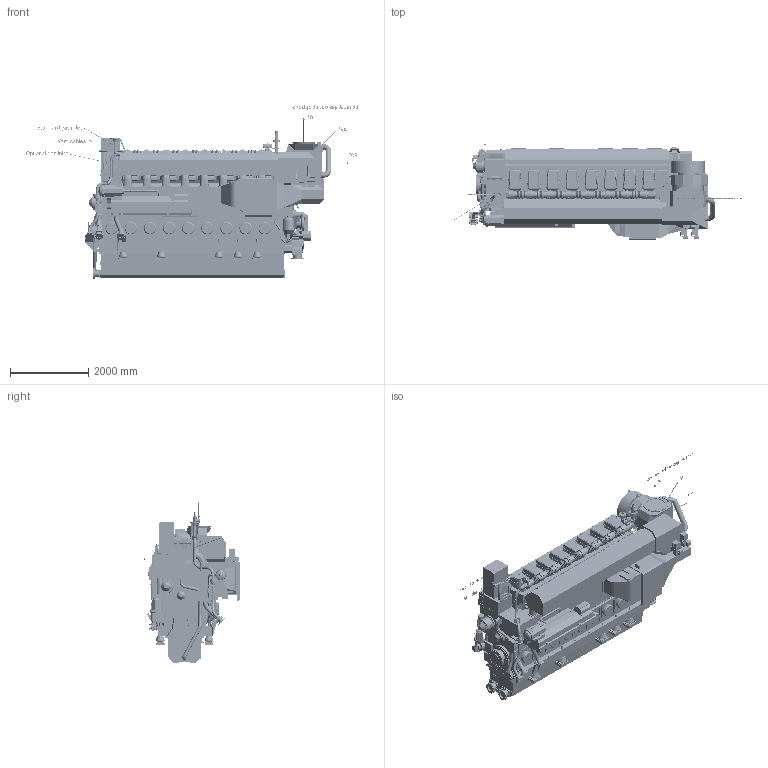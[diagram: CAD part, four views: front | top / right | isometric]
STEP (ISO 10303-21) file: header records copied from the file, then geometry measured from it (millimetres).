
FILE_DESCRIPTION(/* description */ (''),/* implementation_level */ '2;1');
FILE_NAME(/* name */ 'DAAF382027_A.stp',/* time_stamp */ '2021-12-23T11:10:11+02:00',/* author */ (''),/* organization */ (''),/* preprocessor_version */ 'ST-DEVELOPER v16.7',/* originating_system */ 'SIEMENS PLM Software NX 1915',/* authorisation */ '');
FILE_SCHEMA (('AUTOMOTIVE_DESIGN { 1 0 10303 214 3 1 1 1 }'));
Products named in the file (70): PABA319996_-; PABA320172_-; PABA065852_-; PAAF443022_-; PAAF906213_-; PAAF909498_-; PAAF906214_-; PAAF407546_-; PAAF063770_-; PAAF976966_-; PAAF977035_-; PAAF976975_-; PAAF895907_-; PABA066964_-; PAAF975926_-; PAAF975946_-; PAAF975683_-; PABA089633_-; PAAF635310_-; PAAF642271_-; PAAF555086_-; PAAF555085_-; PAAF528361_-; PAAF468817_-; PAAF447172_-; PAAF443398_-; PAAF442682_-; PAAF397145_-; PAAF363075_-; PAAF291916_-; PAAF293701_-; PAAF111190_A; PAAF271372_-; PAAF270351_-; PAAF078702_-; PAAF078621_-; PAAF247482_-; PAAF247479_-; PAAF247485_-; PAAF243367_-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
Assembly tree (114 placements, depth 2):
  PAAF646774_A
    PAAF063632_-
    PAAF074477_-
    PAAF063781_-
    PAAF078046_-
    PAAF074388_-
    PAAF078074_-
    PAAF078236_-
    PAAF078241_-
    PAAF074414_-
    PAAF093819_-
    PAAF093493_-
    PAAF068478_-
    PAAF074911_-
    PAAF087111_-
    PAAF087114_-
    PAAF087136_-
    PAAF093490_-
    PAAF087122_-
    PAAF093585_-
    PAAF087082_-
    PAAF064319_-
    PAAF211477_-
    PAAF238216_-
    PAAF243622_-
    PAAF245519_-
    PAAF243686_-
    PAAF243671_-
    PAAF243662_-
    PAAF243503_-  x8
    PAAF243367_-
    PAAF247485_-
    PAAF247479_-
    PAAF247482_-
    PAAF078621_-
    PAAF078702_-
    PAAF270351_-
    PAAF271372_-
    PAAF111190_A
    PAAF293701_-  x8
    PAAF291916_-
    PAAF363075_-
    PAAF397145_-
    PAAF442682_-
    PAAF443398_-
    PAAF447172_-
    PAAF468817_-
    PAAF528361_-
    PAAF555085_-
    PAAF555086_-
    PAAF642271_-  x10
    PAAF635310_-  x10
    PABA089633_-
    PAAF975683_-
    PAAF975946_-  x7
    PAAF975926_-  x8
    PABA066964_-
    PAAF895907_-
    PAAF976975_-
    PAAF977035_-
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Bounding box: 8501.06 x 2472.63 x 4474.58 mm (x, y, z)
Volume: 16359334277.8 mm3; surface area: 237391520.5 mm2
Topology: 423 solids, 435 shells, 13711 faces, 33848 edges, 21840 vertices
Faces by surface type: plane 7505, cylinder 3196, bspline 1629, extrusion 871, torus 384, cone 116, sphere 8, revolution 2
Full cylindrical faces by diameter (mm): 1 x8, 3 x3, 4.5 x4, 6 x21, 8 x36, 9 x2, 9.539 x2, 10 x10, 11 x3, 11.908 x1, 12 x12, 13 x1, 13.2 x4, 13.5 x8, 14 x24, 14.5 x1, 15 x28, 15.5 x4, 15.6 x4, 15.7 x4, 16 x7, 17 x13, 18 x112, 18.5 x2, 19 x1, 20 x8, 20.05 x2, 20.075 x1, 22 x114, 22.6 x2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
Entity records: 478639 total; most frequent: CARTESIAN_POINT 209164, ORIENTED_EDGE 55326, DIRECTION 50252, EDGE_CURVE 27663, VERTEX_POINT 18412, VECTOR 17354, LINE 16483, AXIS2_PLACEMENT_3D 16448
